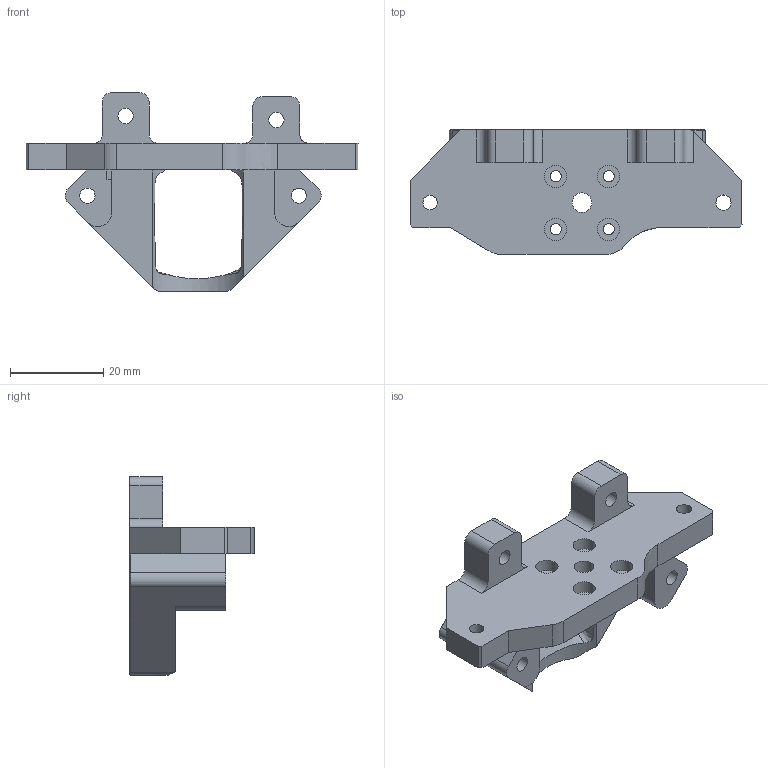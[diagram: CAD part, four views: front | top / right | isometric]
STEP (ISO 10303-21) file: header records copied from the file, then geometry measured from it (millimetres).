
FILE_DESCRIPTION(/* description */ (''),/* implementation_level */ '2;1');
FILE_NAME(/* name */ 'C:/Users/Martin/Documents/icarus-2.1/icarus-2-current-step-files/2-mounts/mount-tbg-lite-dragon-2.1.step',/* time_stamp */ '2022-08-22T21:33:19+02:00',/* author */ (''),/* organization */ (''),/* preprocessor_version */ 'ST-DEVELOPER v19',/* originating_system */ 'Autodesk Translation Framework v11.7.0.108',/* authorisation */ '');
FILE_SCHEMA (('AUTOMOTIVE_DESIGN { 1 0 10303 214 3 1 1 }'));
Length unit declared in the file: millimetre
Products named in the file (1): icarus-2-hotend-extruder-mounts
Bounding box: 71.07 x 26.66 x 42.54 mm (x, y, z)
Volume: 15097.6 mm3; surface area: 8226.2 mm2
Topology: 1 solids, 1 shells, 100 faces, 293 edges, 196 vertices
Faces by surface type: plane 45, cylinder 33, bspline 14, cone 8
Full cylindrical faces by diameter (mm): 2.4 x4, 3.1 x1, 3.25 x4, 3.3 x2, 4.2 x1, 4.8 x4
Entity records: 3995 total; most frequent: CARTESIAN_POINT 1297, ORIENTED_EDGE 586, DIRECTION 501, EDGE_CURVE 293, VERTEX_POINT 196, AXIS2_PLACEMENT_3D 169, LINE 163, VECTOR 163
